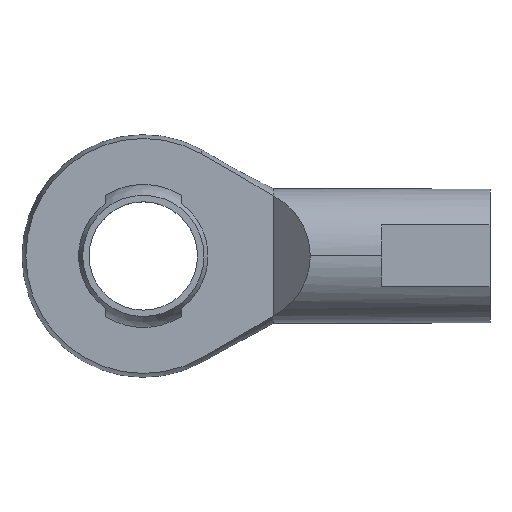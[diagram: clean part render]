
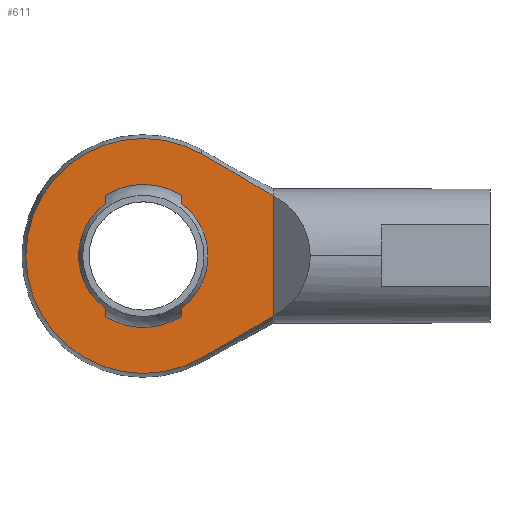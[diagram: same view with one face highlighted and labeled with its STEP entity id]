
A CAD part, top view. The second image highlights one B-rep face of the part: STEP entity #611.
In plain terms, the highlighted planar face has unit normal (0, 0, 1).
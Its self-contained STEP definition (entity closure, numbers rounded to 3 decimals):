
#27 = EDGE_CURVE ( 'NONE', #1445, #1495, #1377, .T. ) ;
#86 = CARTESIAN_POINT ( 'NONE',  ( 60., -27.659, 14. ) ) ;
#90 = CARTESIAN_POINT ( 'NONE',  ( 0., 0., 14. ) ) ;
#91 = DIRECTION ( 'NONE',  ( -1., 0., 0. ) ) ;
#92 = AXIS2_PLACEMENT_3D ( 'NONE', #90, #93, #91 ) ;
#93 = DIRECTION ( 'NONE',  ( 0., 0., -1. ) ) ;
#95 = CARTESIAN_POINT ( 'NONE',  ( -17.5, 24.223, 14. ) ) ;
#122 = DIRECTION ( 'NONE',  ( 1., 0., 0. ) ) ;
#127 = CARTESIAN_POINT ( 'NONE',  ( 60., -56., 14. ) ) ;
#129 = FACE_BOUND ( 'NONE', #612, .T. ) ;
#130 = DIRECTION ( 'NONE',  ( 0., 1., 0. ) ) ;
#131 = VECTOR ( 'NONE', #130, 1000. ) ;
#132 = FACE_OUTER_BOUND ( 'NONE', #618, .T. ) ;
#143 = CARTESIAN_POINT ( 'NONE',  ( 46.277, -35.88, 14. ) ) ;
#144 = CARTESIAN_POINT ( 'NONE',  ( 37.989, -40.722, 14. ) ) ;
#145 = DIRECTION ( 'NONE',  ( -1., 0., 0. ) ) ;
#146 = DIRECTION ( 'NONE',  ( 0., 0., -1. ) ) ;
#147 = CARTESIAN_POINT ( 'NONE',  ( 57.273, -29.332, 14. ) ) ;
#148 = CARTESIAN_POINT ( 'NONE',  ( 54.532, -30.983, 14. ) ) ;
#149 = CARTESIAN_POINT ( 'NONE',  ( 49.034, -34.257, 14. ) ) ;
#150 = CARTESIAN_POINT ( 'NONE',  ( 26.886, -47.086, 14. ) ) ;
#151 = CIRCLE ( 'NONE', #92, 29.883 ) ;
#152 = CARTESIAN_POINT ( 'NONE',  ( -56., -56., 14. ) ) ;
#153 = AXIS2_PLACEMENT_3D ( 'NONE', #152, #146, #145 ) ;
#154 = PLANE ( 'NONE',  #153 ) ;
#155 = CARTESIAN_POINT ( 'NONE',  ( 32.443, -43.913, 14. ) ) ;
#156 = B_SPLINE_CURVE_WITH_KNOTS ( 'NONE', 3,
 ( #150, #155, #144, #143, #149, #148, #147, #86 ),
 .UNSPECIFIED., .F., .F.,
 ( 4, 2, 2, 4 ),
 ( 0.316, 0.336, 0.345, 0.355 ),
 .UNSPECIFIED. ) ;
#157 = DIRECTION ( 'NONE',  ( 0., 0., 1. ) ) ;
#158 = CARTESIAN_POINT ( 'NONE',  ( 0., 0., 14. ) ) ;
#159 = AXIS2_PLACEMENT_3D ( 'NONE', #158, #157, #122 ) ;
#160 = CIRCLE ( 'NONE', #159, 33. ) ;
#161 = LINE ( 'NONE', #162, #171 ) ;
#162 = CARTESIAN_POINT ( 'NONE',  ( -17.5, 27.978, 14. ) ) ;
#163 = LINE ( 'NONE', #127, #131 ) ;
#164 = DIRECTION ( 'NONE',  ( 1., 0., 0. ) ) ;
#165 = DIRECTION ( 'NONE',  ( 0., 0., 1. ) ) ;
#166 = CARTESIAN_POINT ( 'NONE',  ( 0., 0., 14. ) ) ;
#167 = AXIS2_PLACEMENT_3D ( 'NONE', #166, #165, #164 ) ;
#168 = CARTESIAN_POINT ( 'NONE',  ( -17.5, -27.978, 14. ) ) ;
#169 = CIRCLE ( 'NONE', #167, 33. ) ;
#170 = DIRECTION ( 'NONE',  ( 0., -1., 0. ) ) ;
#171 = VECTOR ( 'NONE', #170, 1000. ) ;
#278 = CARTESIAN_POINT ( 'NONE',  ( 60., -27.659, 14. ) ) ;
#581 = VERTEX_POINT ( 'NONE', #95 ) ;
#603 = EDGE_CURVE ( 'NONE', #1492, #1536, #156, .T. ) ;
#606 = ORIENTED_EDGE ( 'NONE', *, *, #1174, .F. ) ;
#607 = ORIENTED_EDGE ( 'NONE', *, *, #1169, .F. ) ;
#608 = ORIENTED_EDGE ( 'NONE', *, *, #609, .T. ) ;
#609 = EDGE_CURVE ( 'NONE', #1163, #1176, #151, .T. ) ;
#611 = ADVANCED_FACE ( 'NONE', ( #129, #132 ), #154, .F. ) ;
#612 = EDGE_LOOP ( 'NONE', ( #607, #608, #606, #617, #627, #615, #626, #631 ) ) ;
#615 = ORIENTED_EDGE ( 'NONE', *, *, #1145, .T. ) ;
#616 = EDGE_CURVE ( 'NONE', #632, #1322, #160, .T. ) ;
#617 = ORIENTED_EDGE ( 'NONE', *, *, #616, .F. ) ;
#618 = EDGE_LOOP ( 'NONE', ( #625, #636, #637, #634 ) ) ;
#620 = EDGE_CURVE ( 'NONE', #1310, #632, #161, .T. ) ;
#625 = ORIENTED_EDGE ( 'NONE', *, *, #603, .T. ) ;
#626 = ORIENTED_EDGE ( 'NONE', *, *, #1117, .F. ) ;
#627 = ORIENTED_EDGE ( 'NONE', *, *, #620, .F. ) ;
#630 = EDGE_CURVE ( 'NONE', #1179, #1119, #169, .T. ) ;
#631 = ORIENTED_EDGE ( 'NONE', *, *, #630, .F. ) ;
#632 = VERTEX_POINT ( 'NONE', #168 ) ;
#634 = ORIENTED_EDGE ( 'NONE', *, *, #1501, .T. ) ;
#636 = ORIENTED_EDGE ( 'NONE', *, *, #638, .T. ) ;
#637 = ORIENTED_EDGE ( 'NONE', *, *, #27, .T. ) ;
#638 = EDGE_CURVE ( 'NONE', #1536, #1445, #163, .T. ) ;
#825 = DIRECTION ( 'NONE',  ( 0., -1., 0. ) ) ;
#826 = VECTOR ( 'NONE', #825, 1000. ) ;
#827 = CARTESIAN_POINT ( 'NONE',  ( -17.5, 27.978, 14. ) ) ;
#840 = CARTESIAN_POINT ( 'NONE',  ( -17.5, 27.978, 14. ) ) ;
#859 = LINE ( 'NONE', #827, #826 ) ;
#887 = CIRCLE ( 'NONE', #891, 29.883 ) ;
#891 = AXIS2_PLACEMENT_3D ( 'NONE', #892, #896, #895 ) ;
#892 = CARTESIAN_POINT ( 'NONE',  ( 0., 0., 14. ) ) ;
#895 = DIRECTION ( 'NONE',  ( -1., 0., 0. ) ) ;
#896 = DIRECTION ( 'NONE',  ( 0., 0., -1. ) ) ;
#932 = CARTESIAN_POINT ( 'NONE',  ( 17.5, 24.223, 14. ) ) ;
#989 = CARTESIAN_POINT ( 'NONE',  ( -17.5, -24.223, 14. ) ) ;
#999 = CARTESIAN_POINT ( 'NONE',  ( 17.5, -27.978, 14. ) ) ;
#1117 = EDGE_CURVE ( 'NONE', #1119, #581, #859, .T. ) ;
#1119 = VERTEX_POINT ( 'NONE', #840 ) ;
#1145 = EDGE_CURVE ( 'NONE', #1310, #581, #887, .T. ) ;
#1163 = VERTEX_POINT ( 'NONE', #932 ) ;
#1169 = EDGE_CURVE ( 'NONE', #1163, #1179, #1558, .T. ) ;
#1174 = EDGE_CURVE ( 'NONE', #1322, #1176, #1554, .T. ) ;
#1176 = VERTEX_POINT ( 'NONE', #1644 ) ;
#1179 = VERTEX_POINT ( 'NONE', #1649 ) ;
#1239 = CARTESIAN_POINT ( 'NONE',  ( 60., 27.659, 14. ) ) ;
#1310 = VERTEX_POINT ( 'NONE', #989 ) ;
#1322 = VERTEX_POINT ( 'NONE', #999 ) ;
#1354 = DIRECTION ( 'NONE',  ( -1., 0., 0. ) ) ;
#1355 = DIRECTION ( 'NONE',  ( 0., 0., 1. ) ) ;
#1356 = CARTESIAN_POINT ( 'NONE',  ( 0., 0., 14. ) ) ;
#1357 = AXIS2_PLACEMENT_3D ( 'NONE', #1356, #1355, #1354 ) ;
#1358 = CIRCLE ( 'NONE', #1357, 54.222 ) ;
#1361 = CARTESIAN_POINT ( 'NONE',  ( 26.886, 47.086, 14. ) ) ;
#1362 = CARTESIAN_POINT ( 'NONE',  ( 26.886, -47.086, 14. ) ) ;
#1368 = CARTESIAN_POINT ( 'NONE',  ( 60., 27.659, 14. ) ) ;
#1370 = CARTESIAN_POINT ( 'NONE',  ( 46.278, 35.88, 14. ) ) ;
#1371 = CARTESIAN_POINT ( 'NONE',  ( 54.532, 30.983, 14. ) ) ;
#1372 = CARTESIAN_POINT ( 'NONE',  ( 57.273, 29.332, 14. ) ) ;
#1373 = CARTESIAN_POINT ( 'NONE',  ( 26.886, 47.086, 14. ) ) ;
#1374 = CARTESIAN_POINT ( 'NONE',  ( 37.99, 40.722, 14. ) ) ;
#1375 = CARTESIAN_POINT ( 'NONE',  ( 32.444, 43.913, 14. ) ) ;
#1376 = CARTESIAN_POINT ( 'NONE',  ( 49.035, 34.257, 14. ) ) ;
#1377 = B_SPLINE_CURVE_WITH_KNOTS ( 'NONE', 3,
 ( #1368, #1372, #1371, #1376, #1370, #1374, #1375, #1373 ),
 .UNSPECIFIED., .F., .F.,
 ( 4, 2, 2, 4 ),
 ( 0.441, 0.451, 0.46, 0.48 ),
 .UNSPECIFIED. ) ;
#1445 = VERTEX_POINT ( 'NONE', #1239 ) ;
#1492 = VERTEX_POINT ( 'NONE', #1362 ) ;
#1495 = VERTEX_POINT ( 'NONE', #1361 ) ;
#1501 = EDGE_CURVE ( 'NONE', #1495, #1492, #1358, .T. ) ;
#1536 = VERTEX_POINT ( 'NONE', #278 ) ;
#1551 = DIRECTION ( 'NONE',  ( 0., 1., 0. ) ) ;
#1552 = VECTOR ( 'NONE', #1551, 1000. ) ;
#1553 = CARTESIAN_POINT ( 'NONE',  ( 17.5, 27.978, 14. ) ) ;
#1554 = LINE ( 'NONE', #1553, #1552 ) ;
#1555 = DIRECTION ( 'NONE',  ( 0., 1., 0. ) ) ;
#1556 = VECTOR ( 'NONE', #1555, 1000. ) ;
#1557 = CARTESIAN_POINT ( 'NONE',  ( 17.5, 27.978, 14. ) ) ;
#1558 = LINE ( 'NONE', #1557, #1556 ) ;
#1644 = CARTESIAN_POINT ( 'NONE',  ( 17.5, -24.223, 14. ) ) ;
#1649 = CARTESIAN_POINT ( 'NONE',  ( 17.5, 27.978, 14. ) ) ;
